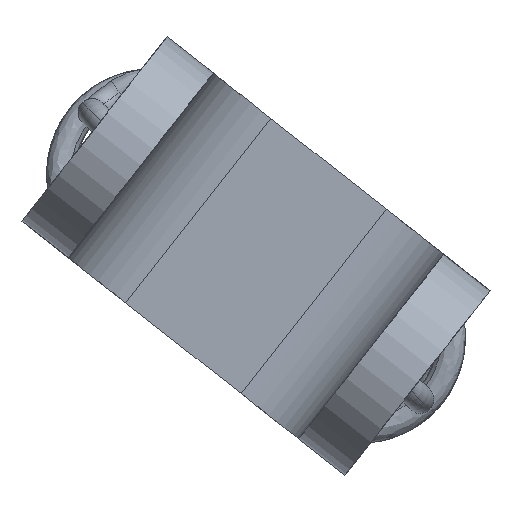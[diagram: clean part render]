
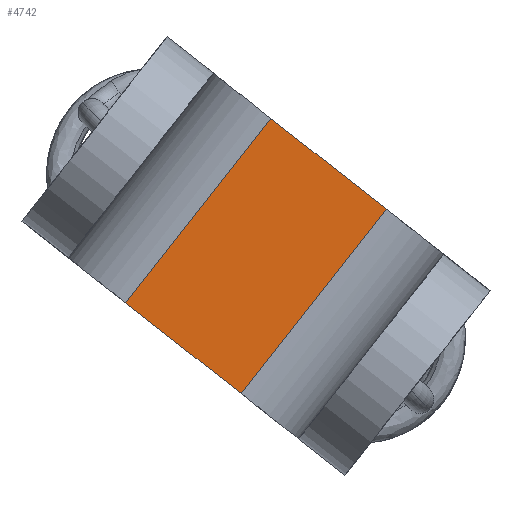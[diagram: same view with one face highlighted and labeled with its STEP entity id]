
A CAD part, front view. The second image highlights one B-rep face of the part: STEP entity #4742.
In plain terms, the highlighted planar face has unit normal (0, -1, 0).
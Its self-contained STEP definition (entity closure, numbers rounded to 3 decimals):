
#534 = CARTESIAN_POINT ( 'NONE',  ( 539.954, -31., -295.137 ) ) ;
#645 = DIRECTION ( 'NONE',  ( -0.618, 0., -0.786 ) ) ;
#711 = CARTESIAN_POINT ( 'NONE',  ( 530.065, -31., -307.715 ) ) ;
#775 = EDGE_CURVE ( 'NONE', #1092, #8865, #6484, .T. ) ;
#901 = DIRECTION ( 'NONE',  ( 1., 0., 0. ) ) ;
#908 = VECTOR ( 'NONE', #1436, 1000. ) ;
#1092 = VERTEX_POINT ( 'NONE', #4066 ) ;
#1436 = DIRECTION ( 'NONE',  ( -0.786, 0., 0.618 ) ) ;
#1490 = DIRECTION ( 'NONE',  ( -0.618, 0., -0.786 ) ) ;
#1677 = EDGE_CURVE ( 'NONE', #8050, #8865, #9036, .T. ) ;
#1747 = EDGE_LOOP ( 'NONE', ( #10837, #6699, #7016, #2490 ) ) ;
#1816 = VECTOR ( 'NONE', #645, 1000. ) ;
#2432 = CARTESIAN_POINT ( 'NONE',  ( 539.954, -31., -295.137 ) ) ;
#2490 = ORIENTED_EDGE ( 'NONE', *, *, #775, .T. ) ;
#2651 = EDGE_CURVE ( 'NONE', #3546, #8050, #3199, .T. ) ;
#3199 = LINE ( 'NONE', #2432, #10203 ) ;
#3202 = CARTESIAN_POINT ( 'NONE',  ( 522.204, -31., -301.535 ) ) ;
#3256 = AXIS2_PLACEMENT_3D ( 'NONE', #10815, #4984, #901 ) ;
#3448 = PLANE ( 'NONE',  #3256 ) ;
#3502 = FACE_OUTER_BOUND ( 'NONE', #1747, .T. ) ;
#3546 = VERTEX_POINT ( 'NONE', #6032 ) ;
#4066 = CARTESIAN_POINT ( 'NONE',  ( 532.093, -31., -288.956 ) ) ;
#4486 = VECTOR ( 'NONE', #7445, 1000. ) ;
#4650 = EDGE_CURVE ( 'NONE', #3546, #1092, #5274, .T. ) ;
#4742 = ADVANCED_FACE ( 'NONE', ( #3502 ), #3448, .F. ) ;
#4984 = DIRECTION ( 'NONE',  ( 0., 1., 0. ) ) ;
#5274 = LINE ( 'NONE', #534, #4486 ) ;
#6032 = CARTESIAN_POINT ( 'NONE',  ( 539.954, -31., -295.137 ) ) ;
#6484 = LINE ( 'NONE', #7355, #1816 ) ;
#6699 = ORIENTED_EDGE ( 'NONE', *, *, #2651, .F. ) ;
#7016 = ORIENTED_EDGE ( 'NONE', *, *, #4650, .T. ) ;
#7355 = CARTESIAN_POINT ( 'NONE',  ( 522.204, -31., -301.535 ) ) ;
#7445 = DIRECTION ( 'NONE',  ( -0.786, 0., 0.618 ) ) ;
#8050 = VERTEX_POINT ( 'NONE', #8693 ) ;
#8693 = CARTESIAN_POINT ( 'NONE',  ( 530.065, -31., -307.715 ) ) ;
#8865 = VERTEX_POINT ( 'NONE', #3202 ) ;
#9036 = LINE ( 'NONE', #711, #908 ) ;
#10203 = VECTOR ( 'NONE', #1490, 1000. ) ;
#10815 = CARTESIAN_POINT ( 'NONE',  ( 530.065, -31., -307.715 ) ) ;
#10837 = ORIENTED_EDGE ( 'NONE', *, *, #1677, .F. ) ;
